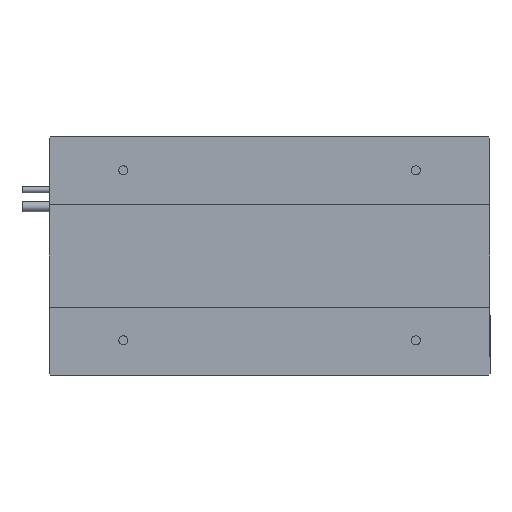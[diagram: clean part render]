
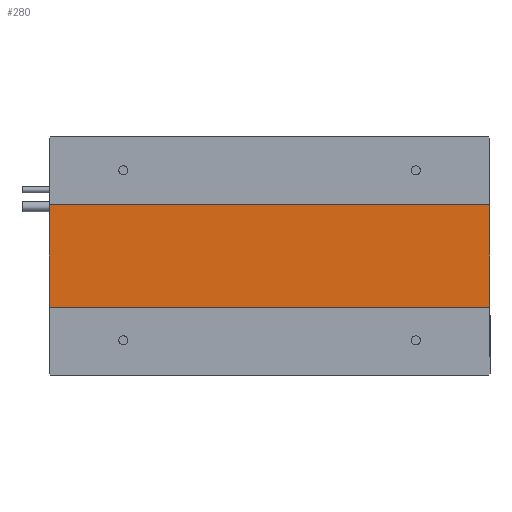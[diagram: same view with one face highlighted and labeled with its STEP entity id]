
A CAD part, front view. The second image highlights one B-rep face of the part: STEP entity #280.
In plain terms, the highlighted planar face has unit normal (0, -1, 0).
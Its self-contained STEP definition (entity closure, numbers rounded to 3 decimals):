
#154 = ORIENTED_EDGE ( 'NONE', *, *, #6782, .T. ) ;
#280 = ADVANCED_FACE ( 'NONE', ( #1810 ), #1089, .F. ) ;
#888 = CARTESIAN_POINT ( 'NONE',  ( 324., 1., -37.5 ) ) ;
#900 = DIRECTION ( 'NONE',  ( 0., 0., 1. ) ) ;
#967 = EDGE_LOOP ( 'NONE', ( #6071, #154, #6410, #1831 ) ) ;
#1052 = DIRECTION ( 'NONE',  ( 0., 1., 0. ) ) ;
#1055 = CARTESIAN_POINT ( 'NONE',  ( 0., 1., 37.5 ) ) ;
#1070 = DIRECTION ( 'NONE',  ( 0., 0., 1. ) ) ;
#1089 = PLANE ( 'NONE',  #1440 ) ;
#1440 = AXIS2_PLACEMENT_3D ( 'NONE', #1055, #1052, #1070 ) ;
#1788 = CARTESIAN_POINT ( 'NONE',  ( 0., 1., 37.5 ) ) ;
#1810 = FACE_OUTER_BOUND ( 'NONE', #967, .T. ) ;
#1831 = ORIENTED_EDGE ( 'NONE', *, *, #6743, .T. ) ;
#1851 = VERTEX_POINT ( 'NONE', #4360 ) ;
#2139 = CARTESIAN_POINT ( 'NONE',  ( 324., 1., -37.5 ) ) ;
#2304 = LINE ( 'NONE', #5627, #2900 ) ;
#2821 = EDGE_CURVE ( 'NONE', #5370, #3282, #6989, .T. ) ;
#2900 = VECTOR ( 'NONE', #5673, 1000. ) ;
#3282 = VERTEX_POINT ( 'NONE', #4655 ) ;
#3317 = LINE ( 'NONE', #4907, #5222 ) ;
#3393 = DIRECTION ( 'NONE',  ( 0., 0., -1. ) ) ;
#3456 = CARTESIAN_POINT ( 'NONE',  ( 0., 1., -37.5 ) ) ;
#4360 = CARTESIAN_POINT ( 'NONE',  ( 0., 1., -37.5 ) ) ;
#4485 = VECTOR ( 'NONE', #3393, 1000. ) ;
#4655 = CARTESIAN_POINT ( 'NONE',  ( 324., 1., 37.5 ) ) ;
#4740 = DIRECTION ( 'NONE',  ( -1., 0., 0. ) ) ;
#4907 = CARTESIAN_POINT ( 'NONE',  ( 0., 1., 37.5 ) ) ;
#5070 = EDGE_CURVE ( 'NONE', #6106, #1851, #5452, .T. ) ;
#5222 = VECTOR ( 'NONE', #4740, 1000. ) ;
#5370 = VERTEX_POINT ( 'NONE', #2139 ) ;
#5452 = LINE ( 'NONE', #3456, #4485 ) ;
#5627 = CARTESIAN_POINT ( 'NONE',  ( 0., 1., -37.5 ) ) ;
#5673 = DIRECTION ( 'NONE',  ( 1., 0., 0. ) ) ;
#6071 = ORIENTED_EDGE ( 'NONE', *, *, #5070, .T. ) ;
#6106 = VERTEX_POINT ( 'NONE', #1788 ) ;
#6410 = ORIENTED_EDGE ( 'NONE', *, *, #2821, .T. ) ;
#6632 = VECTOR ( 'NONE', #900, 1000. ) ;
#6743 = EDGE_CURVE ( 'NONE', #3282, #6106, #3317, .T. ) ;
#6782 = EDGE_CURVE ( 'NONE', #1851, #5370, #2304, .T. ) ;
#6989 = LINE ( 'NONE', #888, #6632 ) ;
